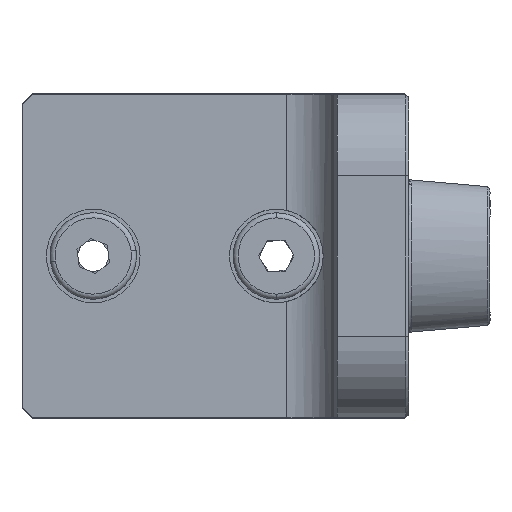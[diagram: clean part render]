
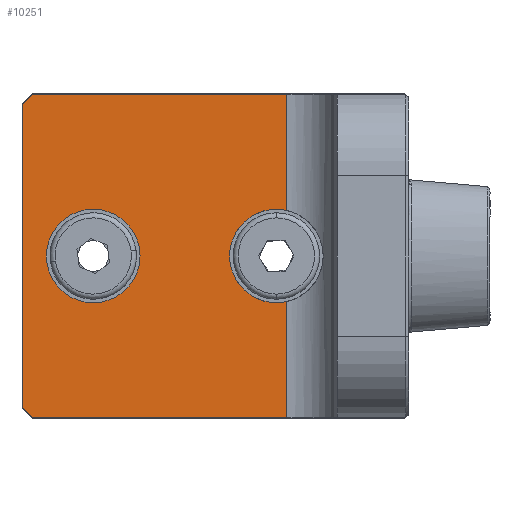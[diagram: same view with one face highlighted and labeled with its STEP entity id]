
A CAD part, left-side view. The second image highlights one B-rep face of the part: STEP entity #10251.
In plain terms, the highlighted planar face has unit normal (-1, 0, 0).
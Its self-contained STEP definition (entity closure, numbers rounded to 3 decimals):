
#324 = EDGE_CURVE ( 'NONE', #4688, #5521, #5718, .T. ) ;
#353 = LINE ( 'NONE', #8131, #2692 ) ;
#540 = DIRECTION ( 'NONE',  ( 0., 0., 1. ) ) ;
#831 = AXIS2_PLACEMENT_3D ( 'NONE', #9875, #3895, #4791 ) ;
#849 = VECTOR ( 'NONE', #540, 1000. ) ;
#871 = CARTESIAN_POINT ( 'NONE',  ( -7., 18., -15.9 ) ) ;
#960 = EDGE_LOOP ( 'NONE', ( #3491, #5381 ) ) ;
#964 = CARTESIAN_POINT ( 'NONE',  ( -7., -7., 4.49 ) ) ;
#971 = CARTESIAN_POINT ( 'NONE',  ( -7., -1.4, 0. ) ) ;
#1091 = DIRECTION ( 'NONE',  ( 0., 0.707, -0.707 ) ) ;
#1166 = ORIENTED_EDGE ( 'NONE', *, *, #10296, .T. ) ;
#1225 = AXIS2_PLACEMENT_3D ( 'NONE', #2113, #7051, #2881 ) ;
#1364 = CARTESIAN_POINT ( 'NONE',  ( -7., -7., -4.49 ) ) ;
#1400 = CARTESIAN_POINT ( 'NONE',  ( -7., 19., 15.9 ) ) ;
#1600 = EDGE_CURVE ( 'NONE', #6904, #9319, #2683, .T. ) ;
#1792 = DIRECTION ( 'NONE',  ( 0., 0., 1. ) ) ;
#1972 = LINE ( 'NONE', #2912, #5065 ) ;
#2113 = CARTESIAN_POINT ( 'NONE',  ( -7., 12., 0. ) ) ;
#2308 = CARTESIAN_POINT ( 'NONE',  ( -7., -7., -15.9 ) ) ;
#2342 = EDGE_CURVE ( 'NONE', #9417, #5178, #353, .T. ) ;
#2582 = ORIENTED_EDGE ( 'NONE', *, *, #7072, .T. ) ;
#2637 = DIRECTION ( 'NONE',  ( 1., 0., 0. ) ) ;
#2683 = LINE ( 'NONE', #4453, #3967 ) ;
#2692 = VECTOR ( 'NONE', #5698, 1000. ) ;
#2704 = AXIS2_PLACEMENT_3D ( 'NONE', #10002, #8327, #8164 ) ;
#2779 = CARTESIAN_POINT ( 'NONE',  ( -7., -7., 15.9 ) ) ;
#2881 = DIRECTION ( 'NONE',  ( 0., -1., 0. ) ) ;
#2912 = CARTESIAN_POINT ( 'NONE',  ( -7., 19., -14.9 ) ) ;
#3220 = ORIENTED_EDGE ( 'NONE', *, *, #10364, .T. ) ;
#3491 = ORIENTED_EDGE ( 'NONE', *, *, #324, .F. ) ;
#3617 = CARTESIAN_POINT ( 'NONE',  ( -7., 19., -14.9 ) ) ;
#3728 = FACE_OUTER_BOUND ( 'NONE', #4608, .T. ) ;
#3780 = CARTESIAN_POINT ( 'NONE',  ( -7., 18., 15.9 ) ) ;
#3812 = CIRCLE ( 'NONE', #831, 4.6 ) ;
#3846 = DIRECTION ( 'NONE',  ( 1., 0., 0. ) ) ;
#3895 = DIRECTION ( 'NONE',  ( 1., 0., 0. ) ) ;
#3967 = VECTOR ( 'NONE', #7824, 1000. ) ;
#3994 = AXIS2_PLACEMENT_3D ( 'NONE', #7726, #2637, #7618 ) ;
#4203 = VERTEX_POINT ( 'NONE', #1364 ) ;
#4335 = VERTEX_POINT ( 'NONE', #964 ) ;
#4453 = CARTESIAN_POINT ( 'NONE',  ( -7., -19., 15.9 ) ) ;
#4514 = ORIENTED_EDGE ( 'NONE', *, *, #1600, .F. ) ;
#4608 = EDGE_LOOP ( 'NONE', ( #4514, #1166, #7324, #6970, #8349, #7899, #2582, #3220, #5685 ) ) ;
#4614 = CARTESIAN_POINT ( 'NONE',  ( -7., 18., 15.9 ) ) ;
#4664 = CARTESIAN_POINT ( 'NONE',  ( -7., 16.6, 0. ) ) ;
#4679 = LINE ( 'NONE', #3780, #9103 ) ;
#4688 = VERTEX_POINT ( 'NONE', #6533 ) ;
#4791 = DIRECTION ( 'NONE',  ( 0., -1., 0. ) ) ;
#5065 = VECTOR ( 'NONE', #7897, 1000. ) ;
#5178 = VERTEX_POINT ( 'NONE', #2308 ) ;
#5339 = VERTEX_POINT ( 'NONE', #7006 ) ;
#5340 = VERTEX_POINT ( 'NONE', #3617 ) ;
#5381 = ORIENTED_EDGE ( 'NONE', *, *, #9069, .F. ) ;
#5521 = VERTEX_POINT ( 'NONE', #4664 ) ;
#5685 = ORIENTED_EDGE ( 'NONE', *, *, #8128, .T. ) ;
#5698 = DIRECTION ( 'NONE',  ( 0., -1., 0. ) ) ;
#5718 = CIRCLE ( 'NONE', #2704, 4.6 ) ;
#5847 = EDGE_CURVE ( 'NONE', #5339, #5340, #10612, .T. ) ;
#6533 = CARTESIAN_POINT ( 'NONE',  ( -7., 7.4, 0. ) ) ;
#6764 = CARTESIAN_POINT ( 'NONE',  ( -7., -7., 15.9 ) ) ;
#6904 = VERTEX_POINT ( 'NONE', #4614 ) ;
#6970 = ORIENTED_EDGE ( 'NONE', *, *, #10879, .T. ) ;
#6982 = VECTOR ( 'NONE', #7352, 1000. ) ;
#7006 = CARTESIAN_POINT ( 'NONE',  ( -7., 19., 14.9 ) ) ;
#7051 = DIRECTION ( 'NONE',  ( -1., 0., 0. ) ) ;
#7072 = EDGE_CURVE ( 'NONE', #4203, #7347, #10354, .T. ) ;
#7102 = LINE ( 'NONE', #2779, #849 ) ;
#7103 = CARTESIAN_POINT ( 'NONE',  ( -7., -19., 15.9 ) ) ;
#7324 = ORIENTED_EDGE ( 'NONE', *, *, #5847, .T. ) ;
#7347 = VERTEX_POINT ( 'NONE', #971 ) ;
#7352 = DIRECTION ( 'NONE',  ( 0., 0., -1. ) ) ;
#7551 = CARTESIAN_POINT ( 'NONE',  ( -7., -7., 15.9 ) ) ;
#7618 = DIRECTION ( 'NONE',  ( 0., -1., 0. ) ) ;
#7710 = LINE ( 'NONE', #7551, #9642 ) ;
#7726 = CARTESIAN_POINT ( 'NONE',  ( -7., -6., 0. ) ) ;
#7742 = CIRCLE ( 'NONE', #1225, 4.6 ) ;
#7824 = DIRECTION ( 'NONE',  ( 0., -1., 0. ) ) ;
#7897 = DIRECTION ( 'NONE',  ( 0., -0.707, -0.707 ) ) ;
#7899 = ORIENTED_EDGE ( 'NONE', *, *, #10035, .T. ) ;
#8128 = EDGE_CURVE ( 'NONE', #4335, #9319, #7102, .T. ) ;
#8131 = CARTESIAN_POINT ( 'NONE',  ( -7., -19., -15.9 ) ) ;
#8164 = DIRECTION ( 'NONE',  ( 0., -1., 0. ) ) ;
#8327 = DIRECTION ( 'NONE',  ( -1., 0., 0. ) ) ;
#8349 = ORIENTED_EDGE ( 'NONE', *, *, #2342, .T. ) ;
#9069 = EDGE_CURVE ( 'NONE', #5521, #4688, #7742, .T. ) ;
#9103 = VECTOR ( 'NONE', #1091, 1000. ) ;
#9319 = VERTEX_POINT ( 'NONE', #6764 ) ;
#9417 = VERTEX_POINT ( 'NONE', #871 ) ;
#9642 = VECTOR ( 'NONE', #1792, 1000. ) ;
#9653 = FACE_BOUND ( 'NONE', #960, .T. ) ;
#9705 = PLANE ( 'NONE',  #10353 ) ;
#9875 = CARTESIAN_POINT ( 'NONE',  ( -7., -6., 0. ) ) ;
#10002 = CARTESIAN_POINT ( 'NONE',  ( -7., 12., 0. ) ) ;
#10035 = EDGE_CURVE ( 'NONE', #5178, #4203, #7710, .T. ) ;
#10251 = ADVANCED_FACE ( 'NONE', ( #3728, #9653 ), #9705, .F. ) ;
#10296 = EDGE_CURVE ( 'NONE', #6904, #5339, #4679, .T. ) ;
#10353 = AXIS2_PLACEMENT_3D ( 'NONE', #7103, #3846, #10479 ) ;
#10354 = CIRCLE ( 'NONE', #3994, 4.6 ) ;
#10364 = EDGE_CURVE ( 'NONE', #7347, #4335, #3812, .T. ) ;
#10479 = DIRECTION ( 'NONE',  ( 0., -1., 0. ) ) ;
#10612 = LINE ( 'NONE', #1400, #6982 ) ;
#10879 = EDGE_CURVE ( 'NONE', #5340, #9417, #1972, .T. ) ;
